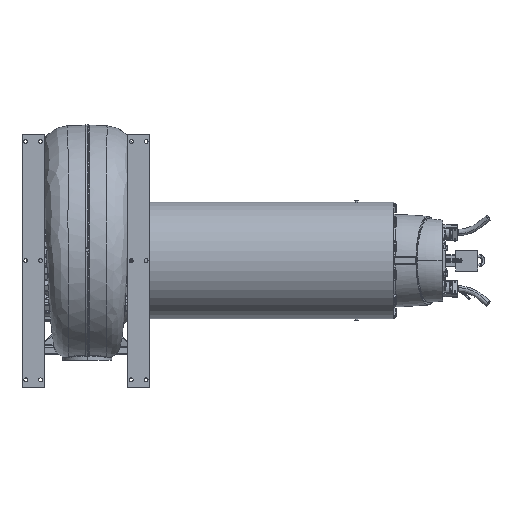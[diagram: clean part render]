
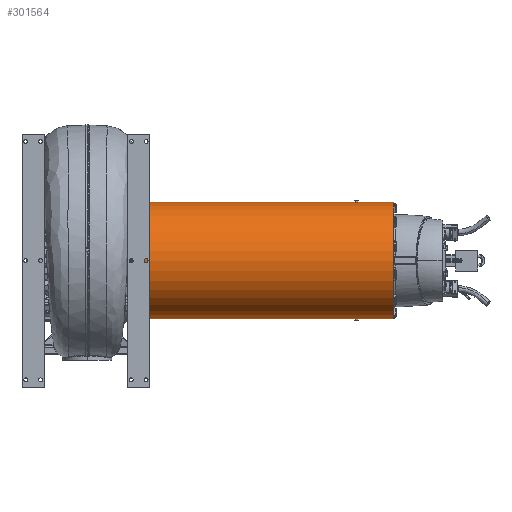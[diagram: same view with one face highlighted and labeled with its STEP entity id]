
A CAD part, front view. The second image highlights one B-rep face of the part: STEP entity #301564.
In plain terms, the highlighted cylindrical face has radius 391.5 mm (diameter 783 mm), a partial arc.
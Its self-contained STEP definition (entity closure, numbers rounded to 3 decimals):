
#395 = DIRECTION ( 'NONE',  ( 0., 0., -1. ) ) ;
#6353 = EDGE_CURVE ( 'NONE', #181884, #140405, #144530, .T. ) ;
#7322 = ORIENTED_EDGE ( 'NONE', *, *, #6353, .T. ) ;
#7795 = CARTESIAN_POINT ( 'NONE',  ( 2148.141, -1128.167, -391.5 ) ) ;
#9350 = CARTESIAN_POINT ( 'NONE',  ( 2133.515, -1134.5, 391.385 ) ) ;
#20896 = VECTOR ( 'NONE', #89130, 1000. ) ;
#21426 = EDGE_CURVE ( 'NONE', #52601, #188526, #173926, .T. ) ;
#21634 = VERTEX_POINT ( 'NONE', #279023 ) ;
#21640 = EDGE_CURVE ( 'NONE', #306663, #233996, #142849, .T. ) ;
#23730 = CARTESIAN_POINT ( 'NONE',  ( 2529.349, -1125., 0. ) ) ;
#24650 = EDGE_CURVE ( 'NONE', #233996, #251949, #221962, .T. ) ;
#24661 = ORIENTED_EDGE ( 'NONE', *, *, #21426, .T. ) ;
#34663 = LINE ( 'NONE', #42486, #91731 ) ;
#37005 = DIRECTION ( 'NONE',  ( 1., 0., 0. ) ) ;
#37289 = CARTESIAN_POINT ( 'NONE',  ( 705., -1125., 391.5 ) ) ;
#42486 = CARTESIAN_POINT ( 'NONE',  ( 2529.349, -1125., 391.5 ) ) ;
#44324 = CARTESIAN_POINT ( 'NONE',  ( 2129.859, -1128.167, -391.5 ) ) ;
#44869 = CARTESIAN_POINT ( 'NONE',  ( 705., -1125., -391.5 ) ) ;
#48142 = DIRECTION ( 'NONE',  ( 1., 0., 0. ) ) ;
#51891 = CARTESIAN_POINT ( 'NONE',  ( 2389., -1125., 0. ) ) ;
#52601 = VERTEX_POINT ( 'NONE', #9350 ) ;
#53761 = ORIENTED_EDGE ( 'NONE', *, *, #167929, .T. ) ;
#58758 = CARTESIAN_POINT ( 'NONE',  ( 2149.97, -1125., -391.5 ) ) ;
#62459 = EDGE_CURVE ( 'NONE', #181884, #21634, #34663, .T. ) ;
#63075 = LINE ( 'NONE', #266301, #313602 ) ;
#63608 = ORIENTED_EDGE ( 'NONE', *, *, #235033, .F. ) ;
#63653 = VERTEX_POINT ( 'NONE', #155631 ) ;
#66069 = CARTESIAN_POINT ( 'NONE',  ( 2129.859, -1128.167, 391.5 ) ) ;
#71470 = EDGE_CURVE ( 'NONE', #73882, #251949, #213652, .T. ) ;
#73571 = CARTESIAN_POINT ( 'NONE',  ( 2529.349, -1125., -391.5 ) ) ;
#73882 = VERTEX_POINT ( 'NONE', #220329 ) ;
#76277 = DIRECTION ( 'NONE',  ( 0., 0., -1. ) ) ;
#89130 = DIRECTION ( 'NONE',  ( -1., 0., 0. ) ) ;
#91731 = VECTOR ( 'NONE', #191115, 1000. ) ;
#92739 = VECTOR ( 'NONE', #98002, 1000. ) ;
#95213 = CARTESIAN_POINT ( 'NONE',  ( 2128.03, -1125., 391.5 ) ) ;
#96000 = CARTESIAN_POINT ( 'NONE',  ( 2529.349, -1125., -391.5 ) ) ;
#98002 = DIRECTION ( 'NONE',  ( 1., 0., 0. ) ) ;
#106088 = ORIENTED_EDGE ( 'NONE', *, *, #62459, .F. ) ;
#113792 = CARTESIAN_POINT ( 'NONE',  ( 2131.687, -1131.334, 391.462 ) ) ;
#115997 = EDGE_LOOP ( 'NONE', ( #63608, #202131, #236870, #136520, #270050, #281631, #53761, #126017, #106088, #7322, #176399, #24661 ) ) ;
#120316 = CARTESIAN_POINT ( 'NONE',  ( 2144.485, -1134.5, -391.385 ) ) ;
#120701 = VECTOR ( 'NONE', #148021, 1000. ) ;
#120883 = DIRECTION ( 'NONE',  ( -1., 0., 0. ) ) ;
#124310 = EDGE_CURVE ( 'NONE', #210424, #73882, #63075, .T. ) ;
#126017 = ORIENTED_EDGE ( 'NONE', *, *, #158413, .F. ) ;
#136520 = ORIENTED_EDGE ( 'NONE', *, *, #71470, .F. ) ;
#137776 = CARTESIAN_POINT ( 'NONE',  ( 2148.141, -1128.167, 391.5 ) ) ;
#140405 = VERTEX_POINT ( 'NONE', #261522 ) ;
#142849 = CIRCLE ( 'NONE', #232654, 391.5 ) ;
#144530 =( BOUNDED_CURVE ( )  B_SPLINE_CURVE ( 3, ( #307442, #137776, #283061, #162128 ),
 .UNSPECIFIED., .F., .F. ) 
 B_SPLINE_CURVE_WITH_KNOTS ( ( 4, 4 ),
 ( 1.571, 1.595 ),
 .UNSPECIFIED. ) 
 CURVE ( )  GEOMETRIC_REPRESENTATION_ITEM ( )  RATIONAL_B_SPLINE_CURVE ( ( 1., 1., 1., 1. ) ) 
 REPRESENTATION_ITEM ( '' )  );
#148021 = DIRECTION ( 'NONE',  ( 1., 0., 0. ) ) ;
#150123 = LINE ( 'NONE', #234569, #20896 ) ;
#153637 =( BOUNDED_CURVE ( )  B_SPLINE_CURVE ( 3, ( #58758, #7795, #155353, #228667 ),
 .UNSPECIFIED., .F., .F. ) 
 B_SPLINE_CURVE_WITH_KNOTS ( ( 4, 4 ),
 ( 1.571, 1.595 ),
 .UNSPECIFIED. ) 
 CURVE ( )  GEOMETRIC_REPRESENTATION_ITEM ( )  RATIONAL_B_SPLINE_CURVE ( ( 1., 1., 1., 1. ) ) 
 REPRESENTATION_ITEM ( '' )  );
#155353 = CARTESIAN_POINT ( 'NONE',  ( 2146.313, -1131.334, -391.462 ) ) ;
#155631 = CARTESIAN_POINT ( 'NONE',  ( 2389., -1125., -391.5 ) ) ;
#156263 = CARTESIAN_POINT ( 'NONE',  ( 2149.97, -1125., -391.5 ) ) ;
#158413 = EDGE_CURVE ( 'NONE', #21634, #63653, #268519, .T. ) ;
#162128 = CARTESIAN_POINT ( 'NONE',  ( 2144.485, -1134.5, 391.385 ) ) ;
#165392 = CARTESIAN_POINT ( 'NONE',  ( 2133.515, -1134.5, -391.385 ) ) ;
#167929 = EDGE_CURVE ( 'NONE', #296185, #63653, #314310, .T. ) ;
#169202 = CARTESIAN_POINT ( 'NONE',  ( 2149.97, -1125., 391.5 ) ) ;
#172281 = FACE_OUTER_BOUND ( 'NONE', #115997, .T. ) ;
#173926 =( BOUNDED_CURVE ( )  B_SPLINE_CURVE ( 3, ( #211526, #113792, #66069, #235965 ),
 .UNSPECIFIED., .F., .T. ) 
 B_SPLINE_CURVE_WITH_KNOTS ( ( 4, 4 ),
 ( 1.547, 1.571 ),
 .UNSPECIFIED. ) 
 CURVE ( )  GEOMETRIC_REPRESENTATION_ITEM ( )  RATIONAL_B_SPLINE_CURVE ( ( 1., 1., 1., 1. ) ) 
 REPRESENTATION_ITEM ( '' )  );
#176399 = ORIENTED_EDGE ( 'NONE', *, *, #278056, .T. ) ;
#176400 = AXIS2_PLACEMENT_3D ( 'NONE', #23730, #48142, #395 ) ;
#177112 = AXIS2_PLACEMENT_3D ( 'NONE', #51891, #221857, #76277 ) ;
#181884 = VERTEX_POINT ( 'NONE', #169202 ) ;
#182477 = CARTESIAN_POINT ( 'NONE',  ( 705., -1125., 0. ) ) ;
#188526 = VERTEX_POINT ( 'NONE', #95213 ) ;
#191115 = DIRECTION ( 'NONE',  ( 1., 0., 0. ) ) ;
#202131 = ORIENTED_EDGE ( 'NONE', *, *, #21640, .T. ) ;
#206429 = CYLINDRICAL_SURFACE ( 'NONE', #176400, 391.5 ) ;
#206927 = DIRECTION ( 'NONE',  ( 0., 0., -1. ) ) ;
#207506 = EDGE_CURVE ( 'NONE', #296185, #210424, #153637, .T. ) ;
#210424 = VERTEX_POINT ( 'NONE', #120316 ) ;
#211526 = CARTESIAN_POINT ( 'NONE',  ( 2133.515, -1134.5, 391.385 ) ) ;
#213652 =( BOUNDED_CURVE ( )  B_SPLINE_CURVE ( 3, ( #165392, #251577, #44324, #214286 ),
 .UNSPECIFIED., .F., .F. ) 
 B_SPLINE_CURVE_WITH_KNOTS ( ( 4, 4 ),
 ( 1.547, 1.571 ),
 .UNSPECIFIED. ) 
 CURVE ( )  GEOMETRIC_REPRESENTATION_ITEM ( )  RATIONAL_B_SPLINE_CURVE ( ( 1., 1., 1., 1. ) ) 
 REPRESENTATION_ITEM ( '' )  );
#214286 = CARTESIAN_POINT ( 'NONE',  ( 2128.03, -1125., -391.5 ) ) ;
#220329 = CARTESIAN_POINT ( 'NONE',  ( 2133.515, -1134.5, -391.385 ) ) ;
#221857 = DIRECTION ( 'NONE',  ( 1., 0., 0. ) ) ;
#221962 = LINE ( 'NONE', #73571, #92739 ) ;
#228667 = CARTESIAN_POINT ( 'NONE',  ( 2144.485, -1134.5, -391.385 ) ) ;
#232654 = AXIS2_PLACEMENT_3D ( 'NONE', #182477, #37005, #206927 ) ;
#233996 = VERTEX_POINT ( 'NONE', #44869 ) ;
#234569 = CARTESIAN_POINT ( 'NONE',  ( 2529.349, -1134.5, 391.385 ) ) ;
#235033 = EDGE_CURVE ( 'NONE', #306663, #188526, #270500, .T. ) ;
#235965 = CARTESIAN_POINT ( 'NONE',  ( 2128.03, -1125., 391.5 ) ) ;
#236870 = ORIENTED_EDGE ( 'NONE', *, *, #24650, .T. ) ;
#251577 = CARTESIAN_POINT ( 'NONE',  ( 2131.687, -1131.334, -391.462 ) ) ;
#251949 = VERTEX_POINT ( 'NONE', #271585 ) ;
#261522 = CARTESIAN_POINT ( 'NONE',  ( 2144.485, -1134.5, 391.385 ) ) ;
#263845 = CARTESIAN_POINT ( 'NONE',  ( 2529.349, -1125., 391.5 ) ) ;
#266301 = CARTESIAN_POINT ( 'NONE',  ( 2529.349, -1134.5, -391.385 ) ) ;
#268519 = CIRCLE ( 'NONE', #177112, 391.5 ) ;
#270050 = ORIENTED_EDGE ( 'NONE', *, *, #124310, .F. ) ;
#270500 = LINE ( 'NONE', #263845, #296919 ) ;
#271585 = CARTESIAN_POINT ( 'NONE',  ( 2128.03, -1125., -391.5 ) ) ;
#278056 = EDGE_CURVE ( 'NONE', #140405, #52601, #150123, .T. ) ;
#279023 = CARTESIAN_POINT ( 'NONE',  ( 2389., -1125., 391.5 ) ) ;
#281631 = ORIENTED_EDGE ( 'NONE', *, *, #207506, .F. ) ;
#283061 = CARTESIAN_POINT ( 'NONE',  ( 2146.313, -1131.334, 391.462 ) ) ;
#288250 = DIRECTION ( 'NONE',  ( 1., 0., 0. ) ) ;
#296185 = VERTEX_POINT ( 'NONE', #156263 ) ;
#296919 = VECTOR ( 'NONE', #288250, 1000. ) ;
#301564 = ADVANCED_FACE ( 'NONE', ( #172281 ), #206429, .T. ) ;
#306663 = VERTEX_POINT ( 'NONE', #37289 ) ;
#307442 = CARTESIAN_POINT ( 'NONE',  ( 2149.97, -1125., 391.5 ) ) ;
#313602 = VECTOR ( 'NONE', #120883, 1000. ) ;
#314310 = LINE ( 'NONE', #96000, #120701 ) ;
